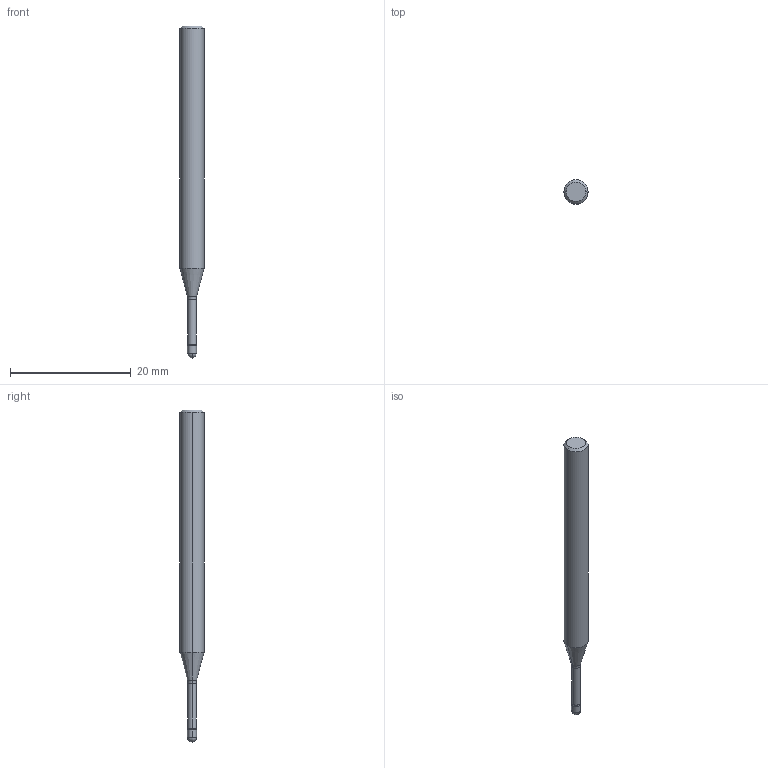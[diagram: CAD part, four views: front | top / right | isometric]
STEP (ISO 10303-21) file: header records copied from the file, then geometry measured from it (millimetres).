
FILE_DESCRIPTION (( 'STEP AP214' ), '1' );
FILE_NAME ('561.578.75_3D-model.step', '2022-02-18T17:41:07', ( '' ), ( '' ), 'SwSTEP 2.0', 'SolidWorks 2020', '' );
FILE_SCHEMA (( 'AUTOMOTIVE_DESIGN' ));
Length unit declared in the file: millimetre
Products named in the file (3): CUT-3D^Baugr31; 561.578.75_3D-model; NOCUT-3D^Baugr31
Assembly tree (2 placements, depth 2):
  561.578.75_3D-model
    CUT-3D^Baugr31
    NOCUT-3D^Baugr31
Bounding box: 4 x 4 x 55 mm (x, y, z)
Volume: 549 mm3; surface area: 604.8 mm2
Topology: 2 solids, 2 shells, 19 faces, 38 edges, 21 vertices
Faces by surface type: cylinder 6, cone 6, plane 3, sphere 2, torus 2
Entity records: 604 total; most frequent: DIRECTION 114, CARTESIAN_POINT 84, ORIENTED_EDGE 72, AXIS2_PLACEMENT_3D 51, EDGE_CURVE 36, CIRCLE 24, VERTEX_POINT 21, EDGE_LOOP 19
